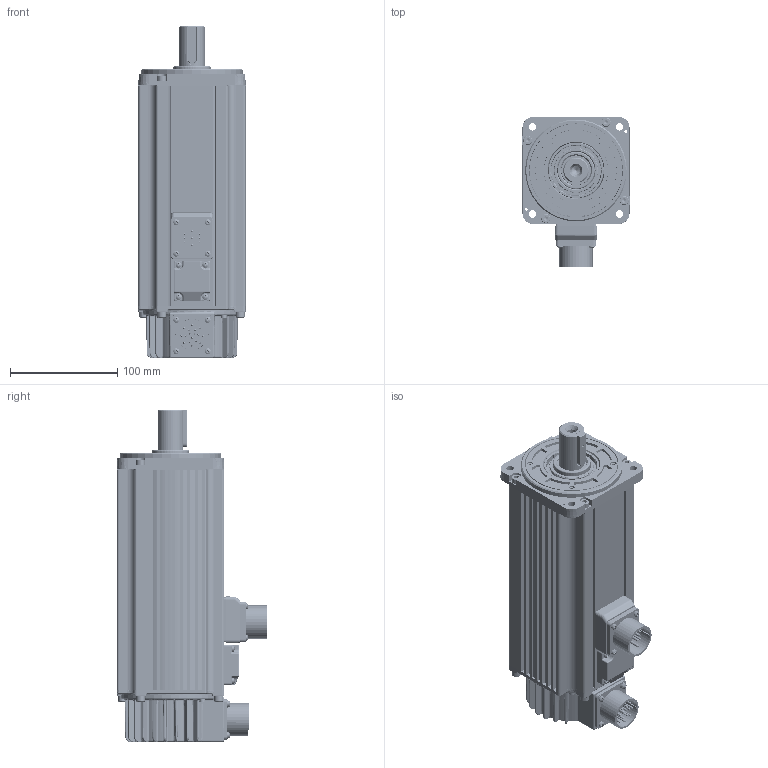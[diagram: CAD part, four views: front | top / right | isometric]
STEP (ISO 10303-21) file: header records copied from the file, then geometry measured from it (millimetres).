
FILE_DESCRIPTION((''),'2;1');
FILE_NAME('ISMH2-25C30CD-U134Z_ASM','2019-11-15T15:19:50',('z17474'),(''),'CREO PARAMETRIC BY PTC INC, 2017260','CREO PARAMETRIC BY PTC INC, 2017260','');
FILE_SCHEMA(('CONFIG_CONTROL_DESIGN'));
Products named in the file (38): __-100-__-D_AF0; ___-100_AF0; ____-100; ____-130H2; _____AF0_ASM; __-______AF0; __-______1_AF0; ___-100_AF1_ASM; _____1_AF0; __-___AF0; _________XIN; 15050037-LJ; ____2; 0000700396; 100-___-D_AF0; 22010917; CB5-16_AF0; CB5-16_AF1; CB5-16_AF2; CB5-16_AF3; 22050021; 22010052_1; 22010052_2_AF0; 22010052_2_AF1; 22010052_2_AF2; 22010052_2_AF3; 22010052_2; CB5-16_AF4; CB5-16_AF5; CB5-16_AF6; CB5-16_AF7; 0312-1_AF0; 0312-1_AF1; 0312-1_AF2; 0312-1_AF3; 31100134-0001; 15050041-2LJ; ISMH2-25C30CD-U134Z_ASM
Assembly tree (55 placements, depth 3):
  ISMH2-25C30CD-U134Z_ASM
    __-100-__-D_AF0
    _____AF0_ASM
      ___-100_AF0
      ____-100
      ____-130H2
    ___-100_AF1_ASM
      __-______AF0
      __-______1_AF0
    _____1_AF0
    __-___AF0
    _________XIN
    ____-130H2
    15050037-LJ
    ____2
    0000700396
    100-___-D_AF0
    22010917
    CB5-16_AF0
    CB5-16_AF1
    CB5-16_AF2
    CB5-16_AF3
    22050021  x4
    22010052_1  x8
    22010052_2_AF0
    22010052_2_AF1
    22010052_2_AF2
    22010052_2_AF3
    22010052_2  x8
    CB5-16_AF4
    CB5-16_AF5
    CB5-16_AF6
    CB5-16_AF7
    0312-1_AF0
    0312-1_AF1
    0312-1_AF2
    0312-1_AF3
    31100134-0001
    15050041-2LJ
Bounding box: 100.1 x 140.05 x 310 mm (x, y, z)
Volume: 681681.3 mm3; surface area: 369042.7 mm2
Topology: 54 solids, 60 shells, 5242 faces, 11985 edges, 6833 vertices
Faces by surface type: cone 2005, cylinder 1768, plane 958, bspline 211, torus 168, sphere 132
Entity records: 117895 total; most frequent: CARTESIAN_POINT 37425, DIRECTION 17642, ORIENTED_EDGE 16196, EDGE_CURVE 8104, AXIS2_PLACEMENT_3D 6966, VERTEX_POINT 4856, EDGE_LOOP 3720, VECTOR 3710
